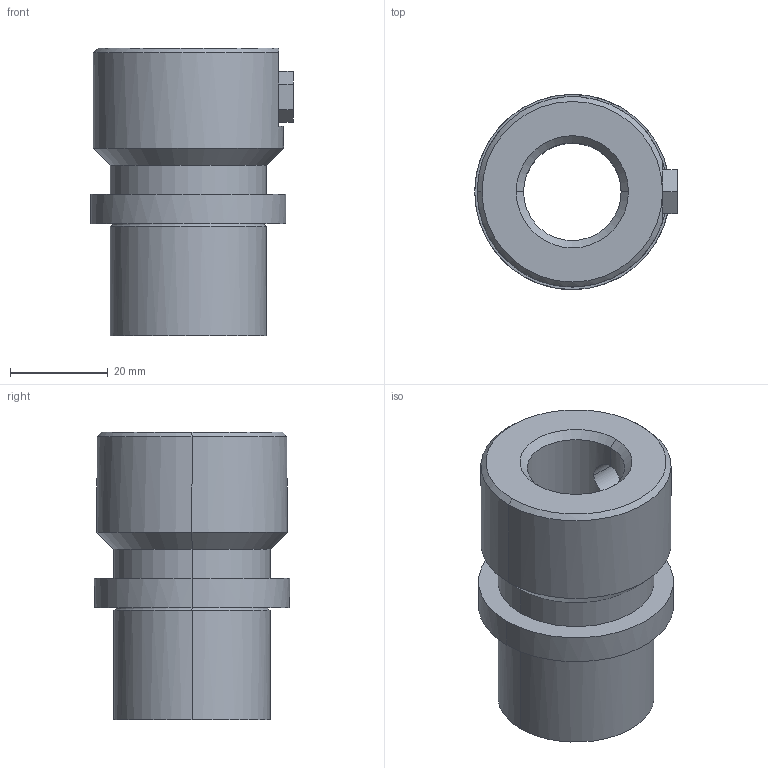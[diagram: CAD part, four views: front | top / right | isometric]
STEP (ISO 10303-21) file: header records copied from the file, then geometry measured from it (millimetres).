
FILE_DESCRIPTION(('CATIA V5 STEP Exchange'),'2;1');
FILE_NAME('C:\Users\Utente\Desktop\IO LAVORO\3D X SITO CF\X SITO\742\742-20.stp','2021-01-23T15:57:04+00:00',('none'),('none'),'CATIA Version 5 Release 20 GA (IN-10)','CATIA V5 STEP AP203','none');
FILE_SCHEMA(('CONFIG_CONTROL_DESIGN'));
Length unit declared in the file: millimetre
Products named in the file (1): 742-20
Assembly tree (1 placements, depth 2):
  742-20
    #58
Bounding box: 41.5 x 40 x 59 mm (x, y, z)
Volume: 39796 mm3; surface area: 12927 mm2
Topology: 1 solids, 1 shells, 38 faces, 91 edges, 58 vertices
Faces by surface type: plane 14, cylinder 12, cone 8, torus 4
Entity records: 1276 total; most frequent: CARTESIAN_POINT 358, ORIENTED_EDGE 182, DIRECTION 155, EDGE_CURVE 91, AXIS2_PLACEMENT_3D 74, VERTEX_POINT 58, EDGE_LOOP 43, VECTOR 41
